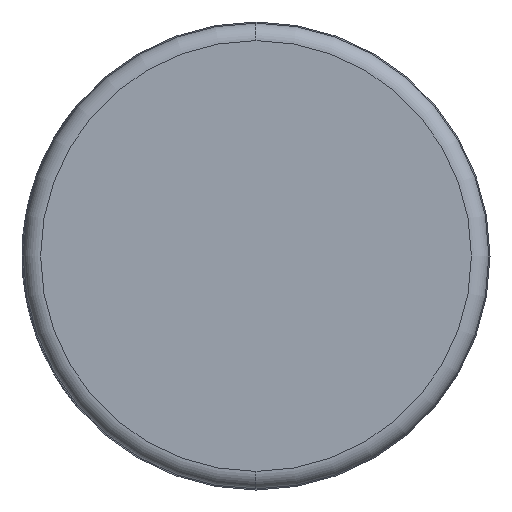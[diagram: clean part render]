
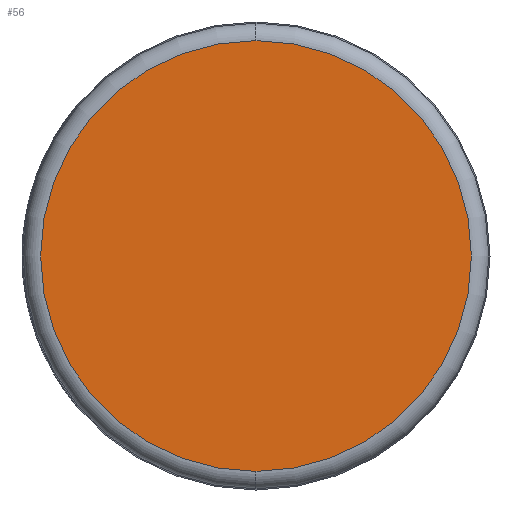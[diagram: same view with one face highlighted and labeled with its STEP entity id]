
A CAD part, left-side view. The second image highlights one B-rep face of the part: STEP entity #56.
In plain terms, the highlighted planar face has unit normal (-1, 0, 0).
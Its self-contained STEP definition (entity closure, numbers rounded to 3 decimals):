
#8 = CARTESIAN_POINT ( 'NONE',  ( 0., 0., 0. ) ) ;
#17 = PLANE ( 'NONE',  #629 ) ;
#24 = CARTESIAN_POINT ( 'NONE',  ( 0., 0., 36.814 ) ) ;
#56 = ADVANCED_FACE ( 'NONE', ( #426 ), #17, .F. ) ;
#69 = DIRECTION ( 'NONE',  ( -1., 0., 0. ) ) ;
#92 = ORIENTED_EDGE ( 'NONE', *, *, #601, .T. ) ;
#111 = CIRCLE ( 'NONE', #349, 36.814 ) ;
#130 = AXIS2_PLACEMENT_3D ( 'NONE', #517, #141, #477 ) ;
#141 = DIRECTION ( 'NONE',  ( -1., 0., 0. ) ) ;
#349 = AXIS2_PLACEMENT_3D ( 'NONE', #470, #69, #404 ) ;
#404 = DIRECTION ( 'NONE',  ( 0., 0., -1. ) ) ;
#426 = FACE_OUTER_BOUND ( 'NONE', #711, .T. ) ;
#438 = ORIENTED_EDGE ( 'NONE', *, *, #658, .T. ) ;
#470 = CARTESIAN_POINT ( 'NONE',  ( 0., 0., 0. ) ) ;
#474 = DIRECTION ( 'NONE',  ( 1., 0., 0. ) ) ;
#477 = DIRECTION ( 'NONE',  ( 0., 0., -1. ) ) ;
#517 = CARTESIAN_POINT ( 'NONE',  ( 0., 0., 0. ) ) ;
#519 = CARTESIAN_POINT ( 'NONE',  ( 0., 0., -36.814 ) ) ;
#529 = VERTEX_POINT ( 'NONE', #24 ) ;
#570 = DIRECTION ( 'NONE',  ( 0., 0., -1. ) ) ;
#590 = CIRCLE ( 'NONE', #130, 36.814 ) ;
#593 = VERTEX_POINT ( 'NONE', #519 ) ;
#601 = EDGE_CURVE ( 'NONE', #593, #529, #590, .T. ) ;
#629 = AXIS2_PLACEMENT_3D ( 'NONE', #8, #474, #570 ) ;
#658 = EDGE_CURVE ( 'NONE', #529, #593, #111, .T. ) ;
#711 = EDGE_LOOP ( 'NONE', ( #92, #438 ) ) ;
